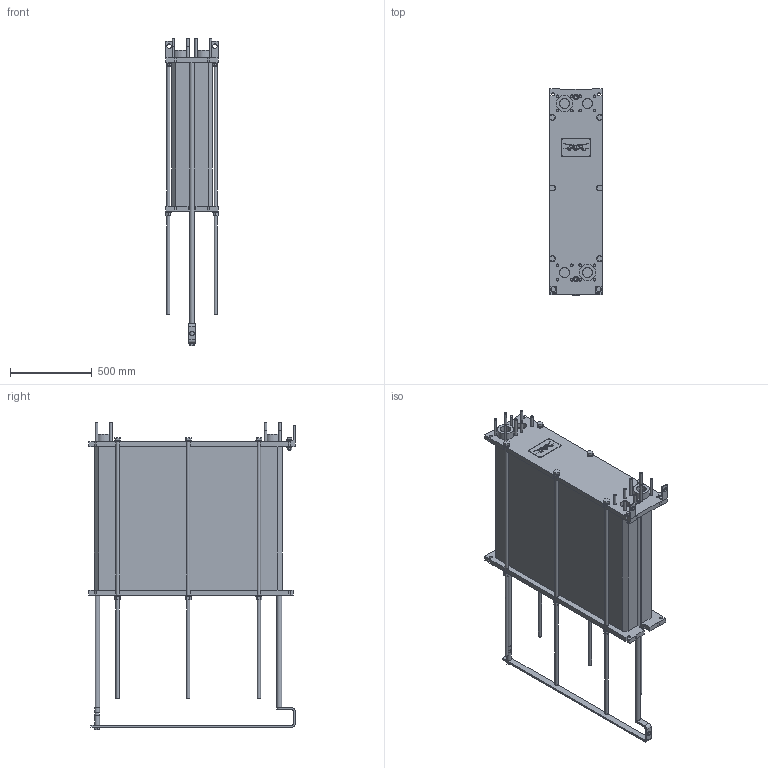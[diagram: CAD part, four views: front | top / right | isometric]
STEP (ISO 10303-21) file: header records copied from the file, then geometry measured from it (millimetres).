
FILE_DESCRIPTION(/* description */ (''),/* implementation_level */ '2;1');
FILE_NAME(/* name */ 'C:\temp\TL6_FG_LC1600_08_Rev0.stp',/* time_stamp */ '2016-02-02T13:37:37+08:00',/* author */ ('SELUJJNCX'),/* organization */ (''),/* preprocessor_version */ 'ST-DEVELOPER v15.6',/* originating_system */ 'Autodesk Inventor 2015',/* authorisation */ '270013742 mm^3');
FILE_SCHEMA (('AUTOMOTIVE_DESIGN { 1 0 10303 214 3 1 1 }'));
Length unit declared in the file: millimetre
Products named in the file (1): 3dmodel_TL6.8
Bounding box: 326 x 1264 x 1884.5 mm (x, y, z)
Volume: 270540493.1 mm3; surface area: 5580690.2 mm2
Topology: 1 solids, 3 shells, 857 faces, 2274 edges, 1495 vertices
Faces by surface type: plane 589, cylinder 236, cone 27, torus 5
Full cylindrical faces by diameter (mm): 4.049 x4, 16 x20, 18 x2, 20 x12, 22 x2, 28 x4, 30 x10, 32 x2, 36 x12, 37 x1, 61 x10, 100 x2
Entity records: 25804 total; most frequent: CARTESIAN_POINT 4474, DIRECTION 4355, ORIENTED_EDGE 4258, EDGE_CURVE 2129, LINE 1595, VECTOR 1595, VERTEX_POINT 1463, AXIS2_PLACEMENT_3D 1380
